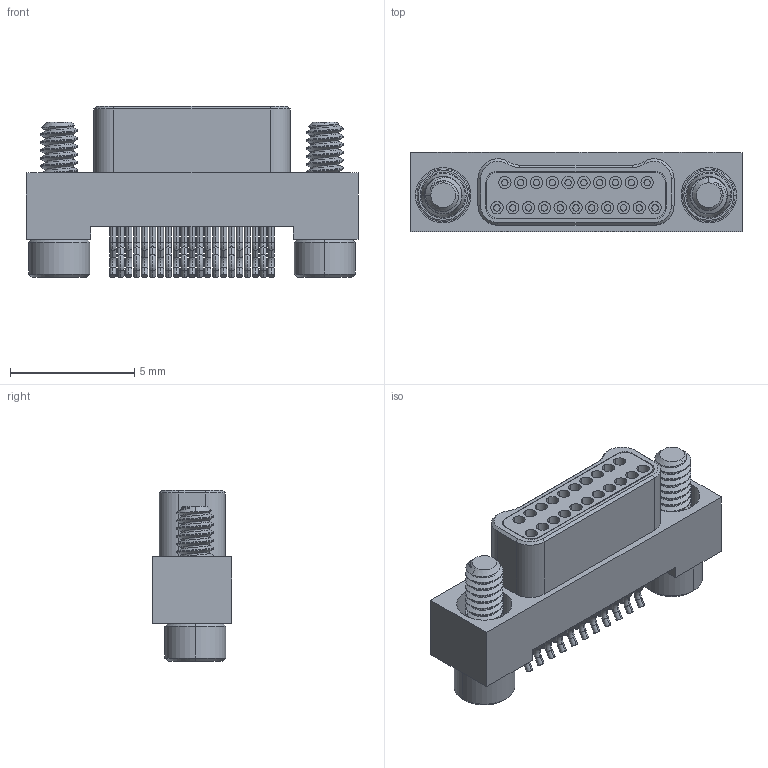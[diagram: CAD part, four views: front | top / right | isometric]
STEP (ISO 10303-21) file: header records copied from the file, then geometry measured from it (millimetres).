
FILE_DESCRIPTION (( 'STEP AP214' ), '1' );
FILE_NAME ('A28300-021 REV H.STEP', '2015-11-04T16:38:08', ( '' ), ( '' ), 'SwSTEP 2.0', 'SolidWorks 2015', '' );
FILE_SCHEMA (( 'AUTOMOTIVE_DESIGN' ));
Length unit declared in the file: inch
Products named in the file (1): A28300-021
Bounding box: 13.34 x 3.19 x 6.87 mm (x, y, z)
Volume: 144.3 mm3; surface area: 674 mm2
Topology: 1 solids, 1 shells, 774 faces, 1751 edges, 1096 vertices
Faces by surface type: cylinder 324, plane 258, torus 100, bspline 54, cone 38
Entity records: 27003 total; most frequent: CARTESIAN_POINT 9556, DIRECTION 3759, ORIENTED_EDGE 3502, EDGE_CURVE 1751, AXIS2_PLACEMENT_3D 1477, VERTEX_POINT 1096, EDGE_LOOP 891, LINE 805
